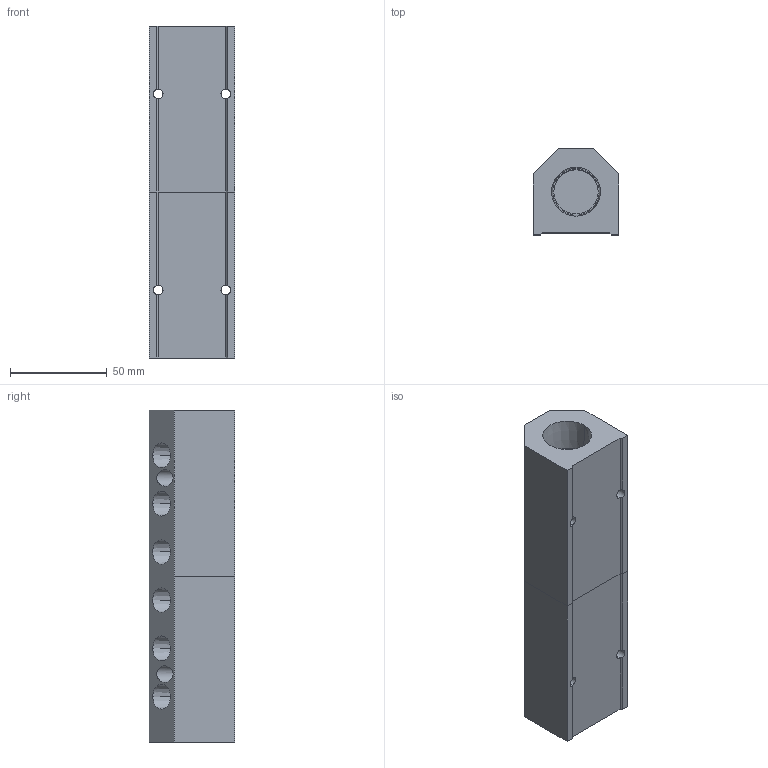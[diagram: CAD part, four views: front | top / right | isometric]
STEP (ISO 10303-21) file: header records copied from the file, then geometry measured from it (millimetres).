
FILE_DESCRIPTION (( 'STEP AP214' ), '1' );
FILE_NAME ('ALM6BD-N4N12-172RB.step', '2022-02-06T14:18:47', ( '' ), ( '' ), 'SwSTEP 2.0', 'SolidWorks 2020', '' );
FILE_SCHEMA (( 'AUTOMOTIVE_DESIGN' ));
Length unit declared in the file: millimetre
Products named in the file (1): ALM6BD-N4N12-172RB
Bounding box: 44.5 x 44.5 x 172 mm (x, y, z)
Volume: 212259.8 mm3; surface area: 52309.1 mm2
Topology: 2 solids, 2 shells, 352 faces, 929 edges, 614 vertices
Faces by surface type: plane 238, bspline 54, cone 36, cylinder 24
Entity records: 18752 total; most frequent: CARTESIAN_POINT 6998, ORIENTED_EDGE 1858, DIRECTION 1443, EDGE_CURVE 929, VECTOR 685, LINE 685, VERTEX_POINT 614, EDGE_LOOP 417
